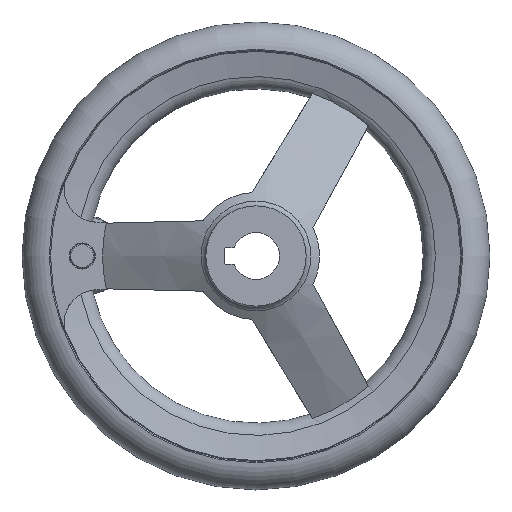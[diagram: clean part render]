
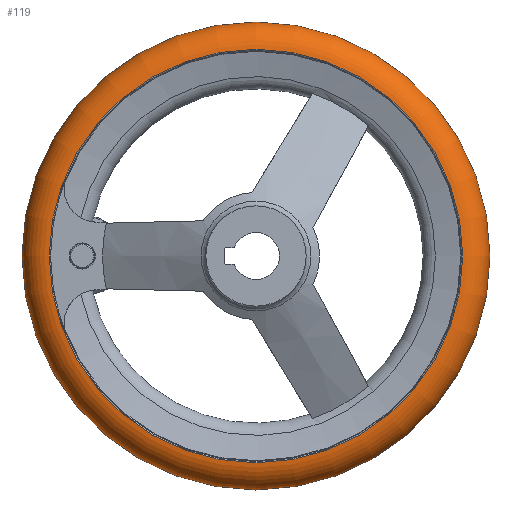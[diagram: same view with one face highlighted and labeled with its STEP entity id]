
A CAD part, left-side view. The second image highlights one B-rep face of the part: STEP entity #119.
In plain terms, the highlighted toroidal (fillet/blend) face has major radius 61.492 mm and minor radius 8.508 mm.
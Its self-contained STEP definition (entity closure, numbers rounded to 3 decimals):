
#119 = ADVANCED_FACE( '', ( #236, #237, #238 ), #239, .T. );
#236 = FACE_BOUND( '', #396, .T. );
#237 = FACE_OUTER_BOUND( '', #397, .T. );
#238 = FACE_OUTER_BOUND( '', #398, .T. );
#239 = TOROIDAL_SURFACE( '', #399, 61.492, 8.508 );
#396 = VERTEX_LOOP( '', #742 );
#397 = EDGE_LOOP( '', ( #743 ) );
#398 = EDGE_LOOP( '', ( #744 ) );
#399 = AXIS2_PLACEMENT_3D( '', #745, #746, #747 );
#742 = VERTEX_POINT( '', #879 );
#743 = ORIENTED_EDGE( '', *, *, #880, .T. );
#744 = ORIENTED_EDGE( '', *, *, #850, .F. );
#745 = CARTESIAN_POINT( '', ( 30.5, 0., 0. ) );
#746 = DIRECTION( '', ( 1., 0., 0. ) );
#747 = DIRECTION( '', ( 0., 1., 0. ) );
#850 = EDGE_CURVE( '', #1021, #1021, #1022, .T. );
#879 = CARTESIAN_POINT( '', ( 30.5, 70., 0. ) );
#880 = EDGE_CURVE( '', #1064, #1064, #1065, .T. );
#1021 = VERTEX_POINT( '', #1580 );
#1022 = CIRCLE( '', #1581, 61.854 );
#1064 = VERTEX_POINT( '', #1656 );
#1065 = CIRCLE( '', #1657, 61.854 );
#1580 = CARTESIAN_POINT( '', ( 39., 61.854, 0. ) );
#1581 = AXIS2_PLACEMENT_3D( '', #1784, #1785, #1786 );
#1656 = CARTESIAN_POINT( '', ( 22., 61.854, 0. ) );
#1657 = AXIS2_PLACEMENT_3D( '', #1836, #1837, #1838 );
#1784 = CARTESIAN_POINT( '', ( 39., 0., 0. ) );
#1785 = DIRECTION( '', ( 1., 0., 0. ) );
#1786 = DIRECTION( '', ( 0., 1., 0. ) );
#1836 = CARTESIAN_POINT( '', ( 22., 0., 0. ) );
#1837 = DIRECTION( '', ( 1., 0., 0. ) );
#1838 = DIRECTION( '', ( 0., 1., 0. ) );
